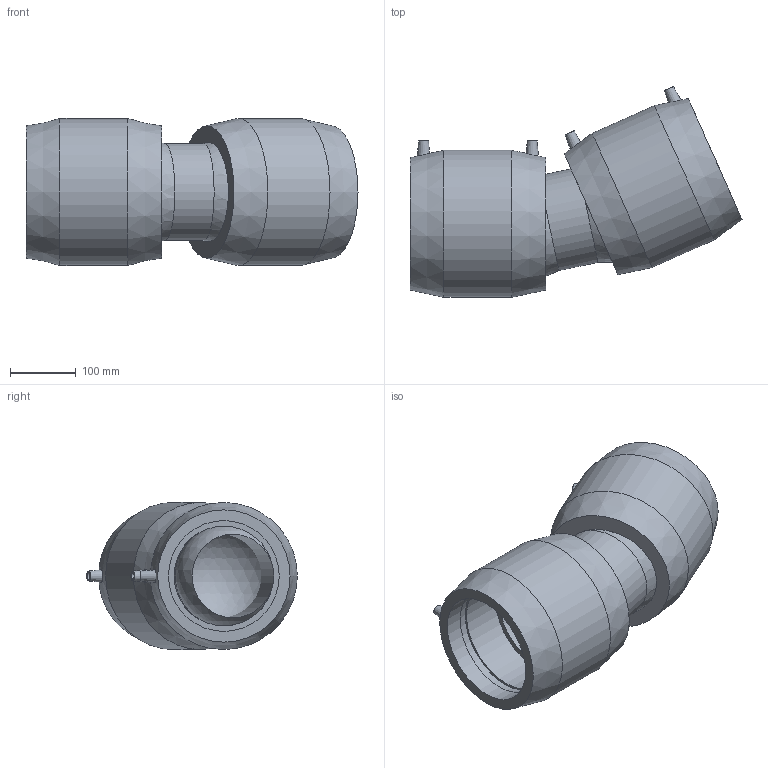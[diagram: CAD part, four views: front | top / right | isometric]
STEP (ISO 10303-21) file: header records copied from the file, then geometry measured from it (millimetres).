
FILE_DESCRIPTION(/* description */ ('PLASSON ADJUSTABLE ELBOW ASTM 6'''''),/* implementation_level */ '2;1');
FILE_NAME(/* name */ 'C:\Dropbox\KIMPROJECTS-Inventor 2019\99-16-3568-Processing Inch\ASTM ElectroFusion 2021\5947B\5947B003060.ipt.stp',/* time_stamp */ '2021-08-30T09:53:03+03:00',/* author */ ('KIM'),/* organization */ (''),/* preprocessor_version */ 'ST-DEVELOPER v17.2',/* originating_system */ 'Autodesk Inventor 2019',/* authorisation */ '');
FILE_SCHEMA (('AUTOMOTIVE_DESIGN { 1 0 10303 214 3 1 1 }'));
Length unit declared in the file: inch
Products named in the file (1): 5947B003060
Bounding box: 503.61 x 319.64 x 223.01 mm (x, y, z)
Volume: 7911185.2 mm3; surface area: 730181.1 mm2
Topology: 1 solids, 1 shells, 51 faces, 112 edges, 80 vertices
Faces by surface type: plane 20, cylinder 18, cone 10, sphere 3
Full cylindrical faces by diameter (mm): 4 x4, 10 x4, 126.466 x1, 147.08 x1, 151.2 x2, 168 x4, 223.012 x2
Entity records: 1852 total; most frequent: CARTESIAN_POINT 608, DIRECTION 274, ORIENTED_EDGE 224, AXIS2_PLACEMENT_3D 123, EDGE_CURVE 112, VERTEX_POINT 80, EDGE_LOOP 72, CIRCLE 72
